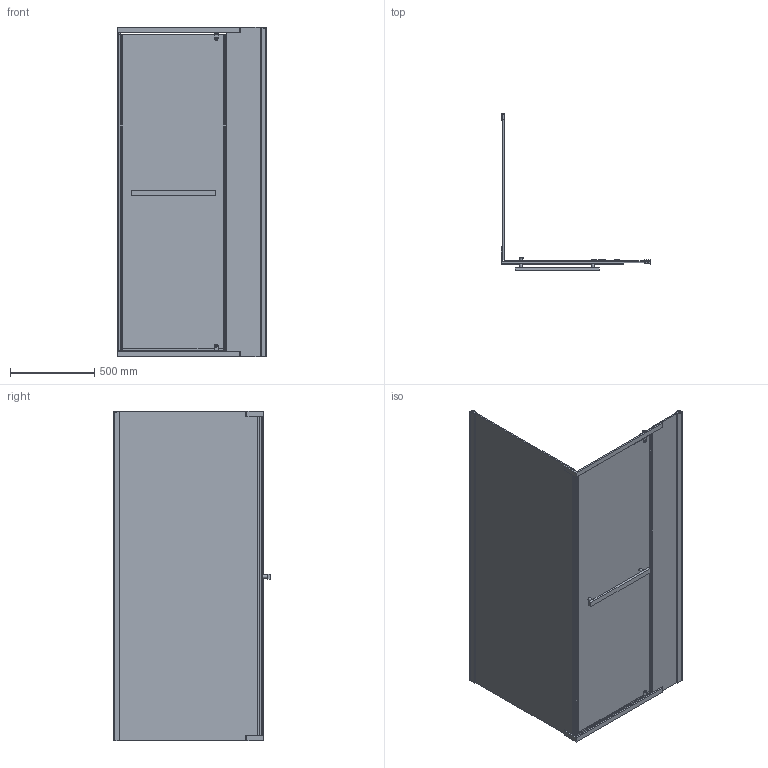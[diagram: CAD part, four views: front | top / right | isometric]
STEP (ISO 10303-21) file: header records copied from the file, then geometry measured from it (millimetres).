
FILE_DESCRIPTION(/* description */ (''),/* implementation_level */ '2;1');
FILE_NAME(/* name */ 'Z:\Ariel\CONCEPTO\MODEL DO 3DS MAX\Concept1.stp',/* time_stamp */ '2024-04-22T13:14:10+02:00',/* author */ ('user'),/* organization */ ('unknown'),/* preprocessor_version */ 'ST-DEVELOPER v17.2',/* originating_system */ 'Autodesk Inventor 2019',/* authorisation */ '');
FILE_SCHEMA (('AUTOMOTIVE_DESIGN { 1 0 10303 214 3 1 1 }'));
Length unit declared in the file: millimetre
Products named in the file (1): Concept1
Bounding box: 887.71 x 928.6 x 1952 mm (x, y, z)
Volume: 27966407.6 mm3; surface area: 8585035 mm2
Topology: 47 solids, 47 shells, 562 faces, 1402 edges, 944 vertices
Faces by surface type: plane 388, cylinder 166, sphere 4, bspline 3, torus 1
Full cylindrical faces by diameter (mm): 10 x8, 12 x2, 19 x3, 22 x4
Entity records: 16798 total; most frequent: CARTESIAN_POINT 2920, DIRECTION 2895, ORIENTED_EDGE 2796, EDGE_CURVE 1398, LINE 1021, VECTOR 1021, VERTEX_POINT 944, AXIS2_PLACEMENT_3D 937
